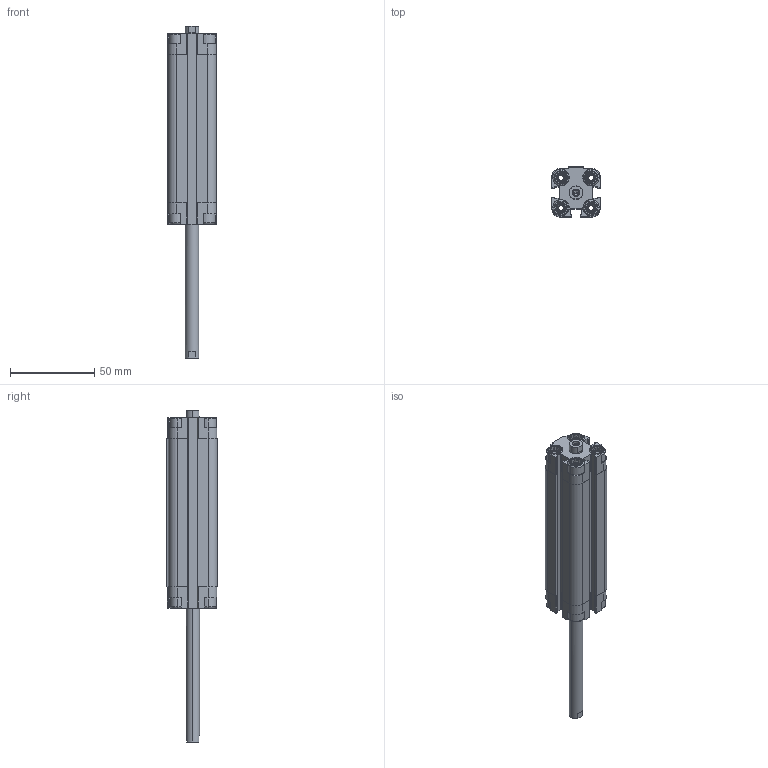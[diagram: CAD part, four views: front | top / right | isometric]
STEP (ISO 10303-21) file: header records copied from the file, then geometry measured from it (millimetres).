
FILE_DESCRIPTION (( 'STEP AP203' ), '1' );
FILE_NAME ('CDVU16-75F-P.STEP', '2020-07-24T18:05:34', ( '' ), ( '' ), 'SwSTEP 2.0', 'SolidWorks 2019', '' );
FILE_SCHEMA (( 'CONFIG_CONTROL_DESIGN' ));
Length unit declared in the file: millimetre
Products named in the file (1): CDVU16-75F-P
Bounding box: 29 x 30 x 197 mm (x, y, z)
Volume: 63070.8 mm3; surface area: 37977.3 mm2
Topology: 2 solids, 2 shells, 566 faces, 1508 edges, 980 vertices
Faces by surface type: plane 338, cylinder 164, cone 48, torus 16
Entity records: 17779 total; most frequent: CARTESIAN_POINT 3623, ORIENTED_EDGE 3000, DIRECTION 2850, EDGE_CURVE 1500, VERTEX_POINT 980, AXIS2_PLACEMENT_3D 975, VECTOR 900, LINE 900
